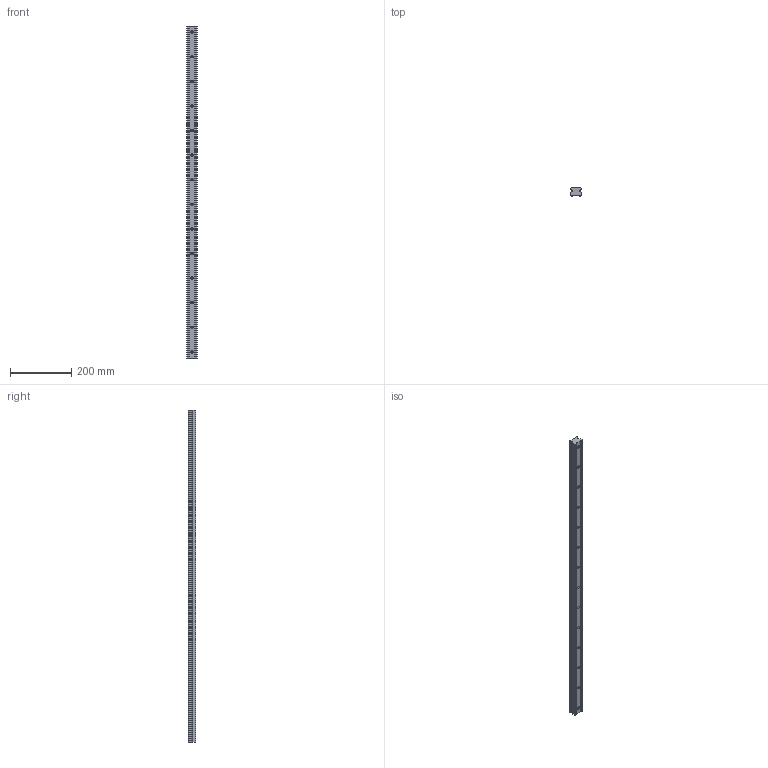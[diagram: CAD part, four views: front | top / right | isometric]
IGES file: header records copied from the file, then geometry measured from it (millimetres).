
Start section: SolidWorks IGES file using analytic representation for surfaces
Global section: file name: C:\Users\IanO\Desktop\Temp File\GENERAL\L1016_v2\L1016.RF35_v2\L1016.RF35_v2_20190612_IGES\L1016.RF35-1080.igs; native system: SolidWorks 2017; preprocessor: SolidWorks 2017; author: IanO; date: 190613.172649; units: millimetre
Bounding box: 34 x 26 x 1080 mm (x, y, z)
Surface area: 141828.7 mm2 (no closed solid volume)
Topology: 0 solids, 0 shells, 124 faces, 1848 edges, 1820 vertices
Faces by surface type: revolution 88, bspline 36
